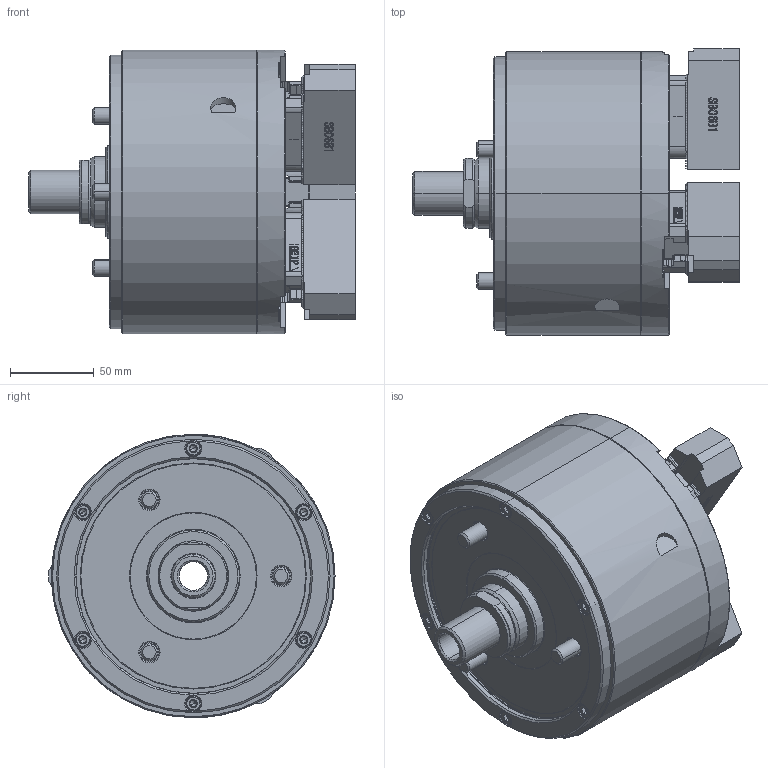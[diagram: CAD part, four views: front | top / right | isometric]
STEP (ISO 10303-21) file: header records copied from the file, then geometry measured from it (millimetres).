
FILE_DESCRIPTION (( 'STEP AP214' ), '1' );
FILE_NAME ('DL206_UC_ID.STEP', '2019-11-07T00:19:35', ( '' ), ( '' ), 'SwSTEP 2.0', 'SolidWorks 2017', '' );
FILE_SCHEMA (( 'AUTOMOTIVE_DESIGN' ));
Length unit declared in the file: millimetre
Products named in the file (5): 結合_ID; 0030110025; 61P456464; 61P385747; DL206_UC_ID
Assembly tree (13 placements, depth 2):
  DL206_UC_ID
    61P385747  x3
    61P456464  x3
    0030110025  x6
    結合_ID
Bounding box: 194.43 x 170.55 x 169 mm (x, y, z)
Volume: 2467517.5 mm3; surface area: 233196.3 mm2
Topology: 13 solids, 13 shells, 5755 faces, 15637 edges, 10183 vertices
Faces by surface type: plane 3617, bspline 1118, cylinder 607, cone 377, torus 32, sphere 4
Entity records: 180520 total; most frequent: CARTESIAN_POINT 69104, ORIENTED_EDGE 25488, DIRECTION 18878, EDGE_CURVE 12744, VECTOR 8928, LINE 8928, VERTEX_POINT 8333, EDGE_LOOP 5027
